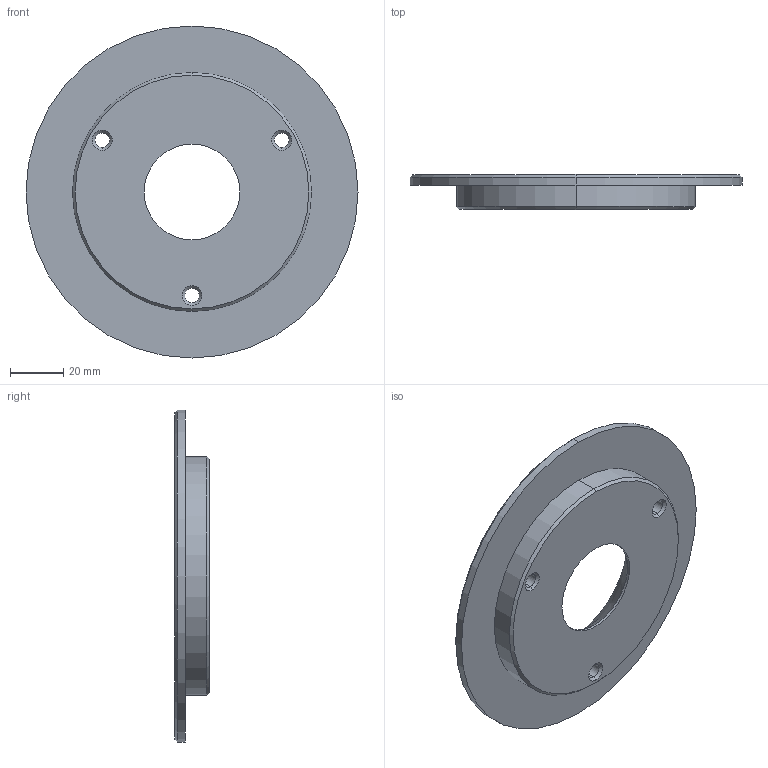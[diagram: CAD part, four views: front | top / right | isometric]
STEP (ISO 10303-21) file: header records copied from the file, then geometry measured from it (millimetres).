
FILE_DESCRIPTION (( 'STEP AP214' ), '1' );
FILE_NAME ('BR1000-125x13.STEP', '2020-02-05T12:22:51', ( 'August' ), ( '' ), 'SwSTEP 2.0', 'SolidWorks 2018', '' );
FILE_SCHEMA (( 'AUTOMOTIVE_DESIGN' ));
Length unit declared in the file: millimetre
Products named in the file (1): BR1000-125x13
Bounding box: 125 x 13 x 125 mm (x, y, z)
Volume: 81041.2 mm3; surface area: 27751.5 mm2
Topology: 1 solids, 1 shells, 42 faces, 90 edges, 54 vertices
Faces by surface type: cone 18, cylinder 18, plane 6
Entity records: 1194 total; most frequent: DIRECTION 230, CARTESIAN_POINT 187, ORIENTED_EDGE 180, AXIS2_PLACEMENT_3D 97, EDGE_CURVE 90, CIRCLE 54, EDGE_LOOP 54, VERTEX_POINT 54
